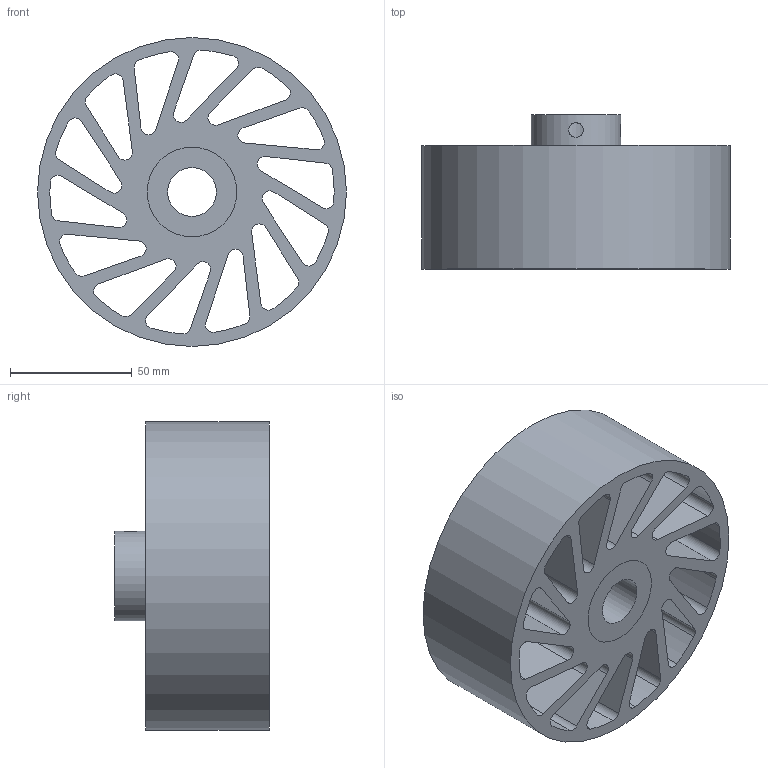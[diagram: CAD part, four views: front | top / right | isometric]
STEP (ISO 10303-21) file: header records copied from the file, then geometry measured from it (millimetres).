
FILE_DESCRIPTION(/* description */ (''),/* implementation_level */ '2;1');
FILE_NAME(/* name */ 'NCWM-520-XXX-YYY.stp',/* time_stamp */ '2023-02-02T16:35:51-06:00',/* author */ ('AG'),/* organization */ ('Meridian Laboratory'),/* preprocessor_version */ 'ST-DEVELOPER v18.1',/* originating_system */ 'Autodesk Inventor 2022',/* authorisation */ '');
FILE_SCHEMA (('AUTOMOTIVE_DESIGN { 1 0 10303 214 3 1 1 }'));
Length unit declared in the file: millimetre
Products named in the file (1): NCWM-440
Bounding box: 127 x 63.5 x 127 mm (x, y, z)
Volume: 353887.2 mm3; surface area: 112773.7 mm2
Topology: 2 solids, 2 shells, 94 faces, 276 edges, 186 vertices
Faces by surface type: cylinder 62, plane 32
Full cylindrical faces by diameter (mm): 6 x2, 20.025 x1, 36.83 x2, 127 x1
Entity records: 3528 total; most frequent: CARTESIAN_POINT 697, DIRECTION 576, ORIENTED_EDGE 552, EDGE_CURVE 276, AXIS2_PLACEMENT_3D 215, VERTEX_POINT 186, LINE 146, VECTOR 146
